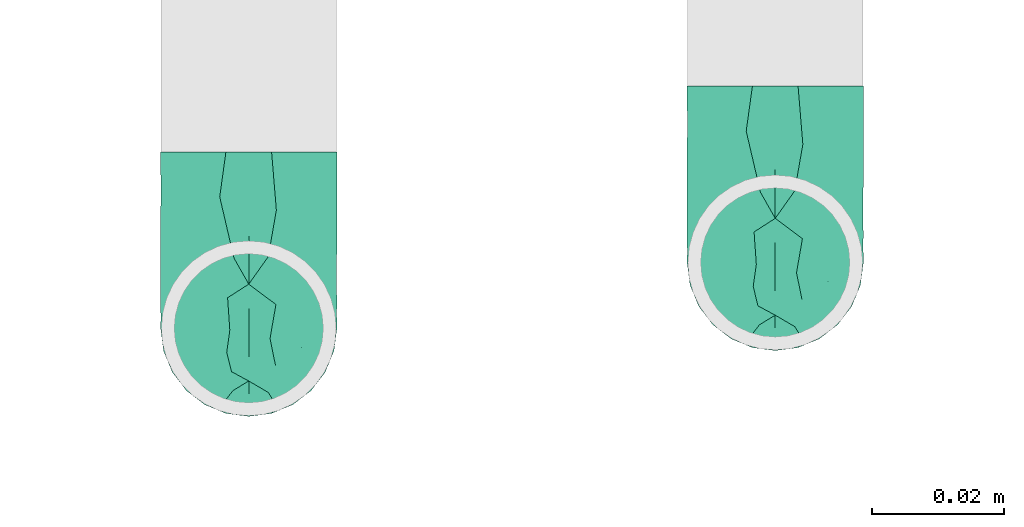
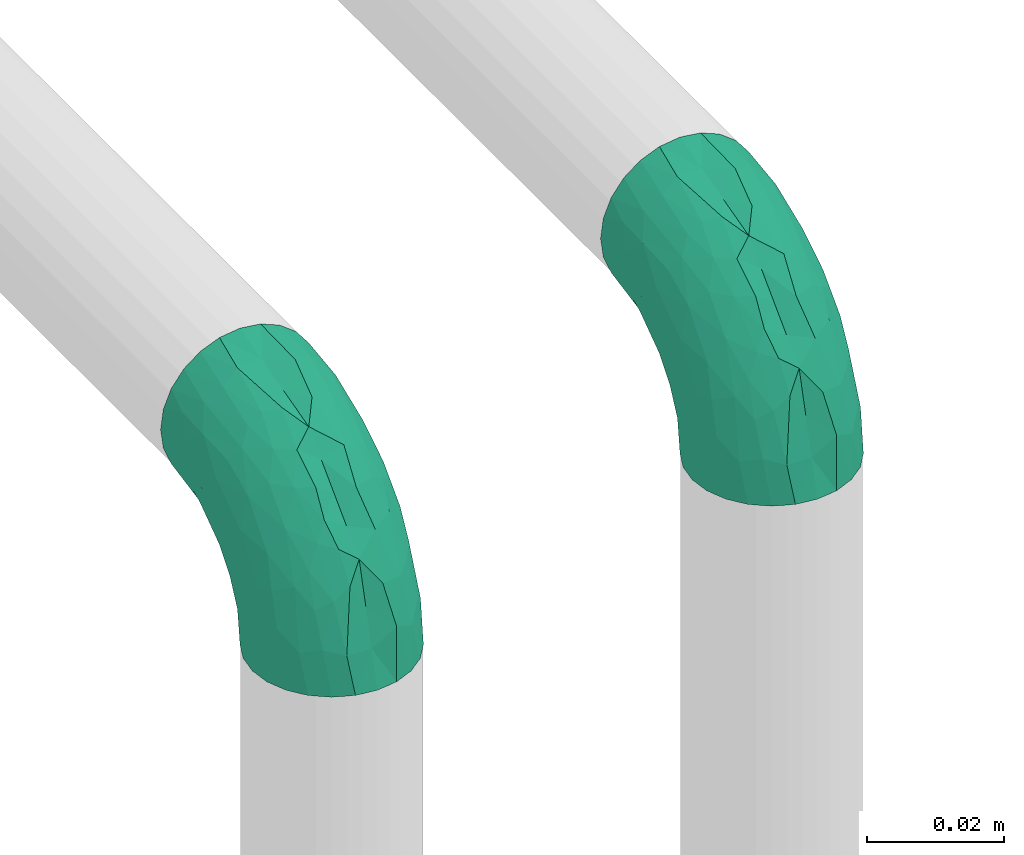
# One storey, part 91 of 156: 2 flow fittings.
"""IFC2X3 building model written with IfcOpenShell, lengths in millimetres."""

from ifc_helpers import new_model, entity, si_unit, converted_unit, derived_unit, direction, frame, origin_with_axes, place, context, subcontext, project, spatial, open_shell, surface_model, source, transform, mapped, type_object, element, save


model = new_model("IFC2X3")

# Units and contexts
model_context = context("Model", 3, precision=0.01, world=frame((0.0, 4.29681676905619e-09, 0.0)), true_north=direction((4.01073788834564e-13, 1.0)))
plan_context = context("Plan", 3, precision=0.01, world=frame((0.0, 4.29681676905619e-09, 0.0)), true_north=direction((4.01073788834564e-13, 1.0)))
body_context = subcontext(model_context, "Body", "Model", "MODEL_VIEW")
ifc_project = project(units=[converted_unit("PLANEANGLEUNIT", "DEGREE", entity("IfcPositiveLengthMeasure", 0.0174532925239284), si_unit("PLANEANGLEUNIT", "RADIAN"), dimensions=[0, 0, 0, 0, 0, 0, 0]), si_unit("AREAUNIT", "SQUARE_METRE"), si_unit("LENGTHUNIT", "METRE", prefix="MILLI"), si_unit("MASSUNIT", "GRAM", prefix="KILO"), si_unit("POWERUNIT", "WATT"), si_unit("PRESSUREUNIT", "PASCAL", prefix="KILO"), si_unit("FORCEUNIT", "NEWTON", prefix="KILO"), si_unit("ELECTRICVOLTAGEUNIT", "VOLT"), si_unit("ELECTRICCURRENTUNIT", "AMPERE"), si_unit("THERMODYNAMICTEMPERATUREUNIT", "DEGREE_CELSIUS"), si_unit("TIMEUNIT", "SECOND"), si_unit("VOLUMEUNIT", "CUBIC_METRE"), derived_unit("LINEARVELOCITYUNIT", [(si_unit("LENGTHUNIT", "METRE"), 1), (si_unit("TIMEUNIT", "SECOND"), -1)]), derived_unit("VOLUMETRICFLOWRATEUNIT", [(si_unit("VOLUMEUNIT", "CUBIC_METRE"), 1), (si_unit("TIMEUNIT", "SECOND"), -1)]), derived_unit("THERMALTRANSMITTANCEUNIT", [(si_unit("POWERUNIT", "WATT"), 1), (si_unit("THERMODYNAMICTEMPERATUREUNIT", "KELVIN"), -1), (si_unit("AREAUNIT", "SQUARE_METRE"), -1)]), derived_unit("SOUNDPRESSUREUNIT", [(si_unit("PRESSUREUNIT", "PASCAL"), 1)])], contexts=[model_context, plan_context])

# Site, building, storey
site_placement = place(None, frame((0.0, -4.29681676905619e-09, 0.0), z_axis=(0.0, 0.0, 1.0), x_axis=(1.0, 0.0, 0.0)))
site = spatial("IfcSite", under=ifc_project, at=site_placement, CompositionType="ELEMENT")
building_placement = place(site_placement, frame((0.0, 4.29681676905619e-09, 0.0), z_axis=(0.0, 0.0, 1.0), x_axis=(1.0, 0.0, 0.0)))
building = spatial("IfcBuilding", under=site, at=building_placement, Name="mc-building", CompositionType="ELEMENT")
storey_placement = place(building_placement, frame((0.0, 0.0, 205200.0), z_axis=(0.0, 0.0, 1.0), x_axis=(1.0, 0.0, 0.0)))
storey = spatial("IfcBuildingStorey", under=building, at=storey_placement, Name="Nivå D + 1,2 m", CompositionType="ELEMENT", Elevation=205200.0)

# Flow fittings
pipe_fitting_type = type_object("IfcPipeFittingType", Name="magi_pipe_fe_elbow_short_001", PredefinedType="BEND")
shared_shape = source(origin_with_axes(), body_context, "Body", "SurfaceModel", [
    surface_model("IfcShellBasedSurfaceModel", [(-26.8, 0.0, -13.4), (-26.8, -12.94341, -3.46818), (-26.8, 3.46818, -12.94341), (-26.8, 6.7, -11.60474), (-26.8, 9.47523, -9.47523), (-26.8, 11.60474, -6.7), (-26.8, 11.60474, 6.7), (-26.8, -9.47523, -9.47523), (-26.8, -6.7, -11.60474), (-26.8, -3.46818, -12.94341), (-26.8, -11.60474, -6.7), (-26.8, -13.4, 0.0), (-26.8, -12.94341, 3.46818), (-26.8, 12.94341, -3.46818), (-26.8, 12.94341, 3.46818), (-26.8, 3.46818, 12.94341), (-26.8, 6.7, 11.60474), (-26.8, 9.47523, 9.47523), (-26.8, -6.7, 11.60474), (-26.8, -11.60474, 6.7), (-26.8, -9.47523, 9.47523), (-26.8, -3.46818, 12.94341), (-26.8, 0.0, 13.4), (-26.8, 13.4, 0.0), (-3.46818, 26.8, -12.94341), (12.94341, 26.8, -3.46818), (0.0, 26.8, -13.4), (-9.47523, 26.8, -9.47523), (-6.7, 26.8, -11.60474), (-11.60474, 26.8, -6.7), (-11.60474, 26.8, 6.7), (6.7, 26.8, -11.60474), (9.47523, 26.8, -9.47523), (3.46818, 26.8, -12.94341), (11.60474, 26.8, -6.7), (12.94341, 26.8, 3.46818), (13.4, 26.8, 0.0), (-13.4, 26.8, 0.0), (-12.94341, 26.8, -3.46818), (-12.94341, 26.8, 3.46818), (-9.47523, 26.8, 9.47523), (-6.7, 26.8, 11.60474), (-3.46818, 26.8, 12.94341), (6.7, 26.8, 11.60474), (9.47523, 26.8, 9.47523), (11.60474, 26.8, 6.7), (3.46818, 26.8, 12.94341), (0.0, 26.8, 13.4), (-17.94383, -11.72186, 4.19396), (-19.61933, -10.40522, 7.51874), (-14.00394, -9.97131, 0.0), (-10.88146, -9.75217, 2.96415), (5.6402, 4.14256, 4.06277), (2.9355, 3.86758, 7.99817), (-0.16552, -0.70254, 6.90229), (-11.69279, -8.47867, 6.74741), (-3.60975, -5.23517, 4.12915), (-20.40197, -11.68565, 0.0), (6.07727, 10.7767, 9.16668), (7.71917, 17.5318, 9.98024), (3.23022, 10.34855, 11.14395), (-17.5318, -7.71917, 9.98024), (-19.6814, -5.06542, 12.05518), (-20.47091, -1.77513, 13.17083), (-18.76435, 2.05404, 13.37716), (-10.34855, -3.23022, 11.14395), (-13.34095, -0.12025, 12.98799), (-20.6562, 5.25542, 12.65822), (-21.01515, 11.15223, 8.78653), (-19.1981, 14.0055, 6.12639), (-23.45804, 12.58298, 5.55254), (-13.79572, 19.62699, 6.0655), (-4.65712, 13.17755, 13.37596), (-9.92557, 9.92557, 13.07441), (-7.97904, 5.85569, 13.33097), (-14.12498, 14.96497, 9.49183), (-23.18377, 8.11481, 10.91864), (-3.49778, 8.97497, 13.15743), (-6.65819, 2.45826, 12.5129), (-1.36893, 7.23965, 12.31444), (-22.3163, 13.71444, 3.37662), (-20.76788, 15.89859, 0.0), (-5.00198, 23.11411, 12.55149), (-1.83653, 20.04451, 13.36709), (5.06542, 19.6814, 12.05518), (-4.60225, -3.19632, 8.30444), (-2.39362, 2.39362, 10.95564), (1.77513, 20.47091, 13.17083), (10.40522, 19.61933, 7.51874), (8.47867, 11.69279, 6.74741), (11.72186, 17.94383, 4.19396), (-10.7767, -6.07727, 9.16668), (-14.71477, 20.20527, 3.11661), (-18.32912, 15.92283, 3.19527), (9.75217, 10.88146, 2.96415), (9.97131, 14.00394, 0.0), (11.68565, 20.40197, 0.0), (-17.32477, 17.32477, 0.0), (8.01422, 6.7, 0.0), (-11.0099, 17.80242, 10.25412), (-8.46783, 20.75346, 11.10693), (-11.06207, 21.36651, 8.74797), (-10.13559, 14.48567, 11.94159), (-5.79525, 18.15733, 12.76163), (-14.31139, 12.02432, 11.13575), (-6.7, -8.01422, 0.0), (-14.72492, 5.73985, 13.1602), (-13.14892, 3.28357, 13.39428), (-14.24576, 9.09225, 12.39421), (-7.80572, 13.90987, 12.83655), (0.12025, 13.34095, 12.98799), (-18.45241, 9.09615, 11.28418), (-1.02036, 0.84565, 9.15855), (-3.66591, -4.13183, 6.30134), (-3.02144, -4.33567, 0.0), (1.56761, -1.1228, 3.23127), (-15.89859, 20.76788, 0.0), (4.33567, 3.02144, 0.0), (0.65711, -0.65711, 0.0), (-21.21323, 1.69434, -13.35639), (-11.59215, 19.61477, -8.94181), (-19.9553, -12.05444, -4.41231), (-20.61911, 5.26132, -12.65979), (-18.29002, 15.89425, -3.37935), (-10.94714, -3.38176, -11.24231), (-11.6358, -0.16715, -12.74497), (-5.38395, -0.22423, -10.97991), (-19.45447, 8.78609, -11.20697), (-21.18665, 11.10723, -8.76769), (8.05635, 19.80434, -10.14754), (-16.16073, 12.27967, -10.10626), (-10.65974, -9.81032, -2.24682), (-4.63434, -6.26604, -3.21731), (-12.41035, 15.57424, -10.31822), (-9.54276, 16.38525, -11.6371), (-12.38435, 12.38435, -11.76567), (-1.18054, -2.52878, -5.66699), (1.17703, 2.36499, -8.51656), (4.94456, 3.94062, -5.27361), (-13.23013, 7.7548, -12.95755), (-18.92609, -10.30887, -7.4546), (-19.80434, -8.05635, -10.14754), (-5.46999, 19.49566, -12.70683), (12.05444, 19.9553, -4.41231), (-22.63124, -5.28269, -12.19553), (-11.57403, -7.91736, -7.4927), (-10.00514, -5.4662, -9.37392), (0.56412, 6.29454, -11.17498), (0.16715, 11.6358, -12.74497), (2.76952, 11.43973, -11.70622), (-22.71135, 13.83144, -2.294), (-13.13887, 21.26515, -5.84046), (-14.02683, 21.74629, -2.98452), (10.30887, 18.92609, -7.4546), (-4.73052, 4.73052, -12.6532), (-16.28385, 15.93209, -6.57302), (-1.69434, 21.21323, -13.35639), (-8.4106, 21.03687, -11.08508), (1.68957, 19.74249, -13.15499), (5.28269, 22.63124, -12.19553), (-19.74249, -1.68957, -13.15499), (-16.96978, -4.62448, -11.91765), (-3.16773, 14.76219, -13.39711), (-7.24575, 7.81916, -13.39239), (-7.92886, 12.7032, -13.00116), (-6.57993, -6.26304, -6.05124), (9.46363, 9.95483, -2.39006), (6.59847, 4.89531, -2.6225), (0.29079, -2.47661, -2.876), (-21.42347, 13.17132, -5.65321), (9.35918, 11.66841, -5.08525), (8.33374, 12.94014, -7.69724), (5.4662, 10.00514, -9.37392), (4.62448, 16.96978, -11.91765), (-3.89324, -2.60816, -8.35445), (5.97121, 7.49007, -7.29975), (-14.76219, 3.16773, -13.39711), (-15.36238, 22.06238, 0.0), (-11.66841, -9.35918, -5.08525), (3.63632, 1.19488, -3.35093), (-14.94382, 15.17624, -8.6945)], [open_shell([[[0, 1, 2]], [[3, 2, 4]], [[5, 2, 1]], [[4, 2, 5]], [[5, 1, 6]], [[7, 1, 8]], [[0, 9, 8]], [[10, 1, 7]], [[8, 1, 0]], [[11, 12, 1]], [[13, 5, 14]], [[5, 6, 14]], [[1, 15, 6]], [[15, 16, 17]], [[6, 15, 17]], [[1, 18, 15]], [[19, 20, 12]], [[18, 12, 20]], [[18, 21, 15]], [[18, 1, 12]], [[15, 21, 22]], [[14, 23, 13]], [[24, 25, 26]], [[27, 24, 28]], [[25, 24, 29]], [[29, 24, 27]], [[30, 25, 29]], [[31, 25, 32]], [[31, 33, 26]], [[32, 25, 34]], [[26, 25, 31]], [[25, 35, 36]], [[37, 29, 38]], [[39, 30, 29]], [[30, 40, 25]], [[40, 41, 42]], [[42, 25, 40]], [[43, 25, 42]], [[35, 44, 45]], [[44, 35, 43]], [[42, 46, 43]], [[35, 25, 43]], [[47, 46, 42]], [[39, 29, 37]], [[48, 49, 19]], [[48, 50, 51]], [[52, 53, 54]], [[55, 51, 56]], [[49, 20, 19]], [[57, 48, 12]], [[58, 59, 60]], [[61, 18, 20]], [[61, 62, 18]], [[22, 63, 64]], [[62, 65, 66]], [[59, 44, 43]], [[22, 21, 63]], [[67, 16, 15]], [[68, 69, 70]], [[30, 39, 71]], [[72, 73, 74]], [[69, 68, 75]], [[22, 64, 15]], [[16, 76, 17]], [[6, 17, 68]], [[77, 78, 79]], [[80, 81, 23]], [[42, 82, 83]], [[43, 84, 59]], [[85, 86, 65]], [[46, 47, 87]], [[88, 89, 90]], [[91, 65, 61]], [[47, 42, 83]], [[71, 92, 93]], [[90, 94, 95]], [[84, 43, 46]], [[88, 90, 45]], [[59, 84, 60]], [[35, 45, 90]], [[75, 71, 69]], [[18, 62, 21]], [[90, 96, 35]], [[97, 81, 93]], [[94, 98, 95]], [[92, 97, 93]], [[50, 48, 57]], [[70, 14, 6]], [[99, 100, 101]], [[40, 101, 100]], [[41, 40, 100]], [[102, 103, 100]], [[103, 72, 83]], [[82, 100, 103]], [[82, 42, 41]], [[99, 104, 102]], [[23, 14, 80]], [[67, 15, 64]], [[51, 50, 105]], [[48, 19, 12]], [[49, 55, 61]], [[45, 44, 88]], [[89, 52, 94]], [[106, 107, 74]], [[108, 67, 106]], [[40, 30, 101]], [[103, 102, 109]], [[103, 109, 72]], [[87, 83, 110]], [[76, 68, 17]], [[68, 111, 104]], [[65, 62, 61]], [[63, 62, 66]], [[91, 61, 55]], [[65, 86, 78]], [[87, 84, 46]], [[110, 79, 60]], [[110, 60, 84]], [[86, 112, 60]], [[55, 49, 48]], [[61, 20, 49]], [[44, 59, 88]], [[89, 88, 59]], [[106, 67, 64]], [[76, 67, 111]], [[53, 52, 89]], [[112, 86, 85]], [[56, 113, 55]], [[112, 54, 53]], [[58, 89, 59]], [[56, 51, 105]], [[114, 115, 56]], [[14, 70, 80]], [[69, 71, 93]], [[37, 116, 92]], [[92, 116, 97]], [[30, 71, 101]], [[75, 101, 71]], [[99, 102, 100]], [[108, 104, 111]], [[106, 74, 73]], [[110, 83, 72]], [[78, 74, 66]], [[72, 74, 77]], [[83, 87, 47]], [[84, 87, 110]], [[62, 63, 21]], [[64, 63, 66]], [[12, 11, 57]], [[96, 90, 95]], [[96, 36, 35]], [[115, 117, 52]], [[56, 105, 114]], [[55, 48, 51]], [[89, 94, 90]], [[52, 98, 94]], [[106, 64, 107]], [[108, 106, 73]], [[102, 108, 73]], [[67, 108, 111]], [[102, 104, 108]], [[68, 104, 75]], [[64, 66, 107]], [[66, 74, 107]], [[65, 78, 66]], [[79, 78, 86]], [[60, 79, 86]], [[77, 79, 110]], [[72, 77, 110]], [[78, 77, 74]], [[67, 76, 16]], [[68, 76, 111]], [[100, 82, 41]], [[83, 82, 103]], [[68, 70, 6]], [[80, 69, 93]], [[69, 80, 70]], [[80, 93, 81]], [[55, 85, 91]], [[85, 65, 91]], [[60, 53, 58]], [[53, 89, 58]], [[54, 112, 85]], [[60, 112, 53]], [[85, 113, 54]], [[113, 115, 54]], [[55, 113, 85]], [[115, 113, 56]], [[71, 39, 92]], [[115, 114, 118]], [[37, 92, 39]], [[101, 75, 99]], [[99, 75, 104]], [[102, 73, 109]], [[72, 109, 73]], [[54, 115, 52]], [[117, 115, 118]], [[117, 98, 52]], [[2, 119, 0]], [[29, 27, 120]], [[121, 57, 1]], [[3, 122, 2]], [[97, 123, 81]], [[124, 125, 126]], [[127, 4, 128]], [[32, 129, 31]], [[127, 128, 130]], [[131, 132, 105]], [[133, 134, 135]], [[127, 3, 4]], [[136, 137, 138]], [[139, 122, 127]], [[4, 5, 128]], [[10, 140, 121]], [[141, 140, 7]], [[24, 142, 28]], [[95, 143, 96]], [[144, 8, 9]], [[145, 141, 146]], [[25, 36, 96]], [[147, 148, 149]], [[140, 10, 7]], [[23, 81, 150]], [[130, 133, 135]], [[151, 152, 38]], [[153, 34, 143]], [[147, 154, 148]], [[38, 29, 151]], [[120, 155, 151]], [[32, 153, 129]], [[26, 156, 24]], [[24, 156, 142]], [[143, 34, 25]], [[27, 28, 157]], [[123, 152, 155]], [[158, 33, 159]], [[144, 160, 161]], [[122, 3, 127]], [[148, 162, 158]], [[157, 28, 142]], [[162, 163, 164]], [[159, 33, 31]], [[165, 136, 132]], [[34, 153, 32]], [[166, 98, 167]], [[160, 9, 0]], [[161, 160, 125]], [[95, 166, 143]], [[50, 131, 105]], [[121, 1, 10]], [[168, 114, 132]], [[150, 169, 13]], [[167, 98, 117]], [[33, 158, 26]], [[164, 142, 162]], [[133, 157, 134]], [[7, 8, 141]], [[165, 145, 146]], [[170, 171, 153]], [[129, 172, 173]], [[126, 137, 174]], [[175, 137, 172]], [[148, 158, 173]], [[156, 158, 162]], [[149, 172, 147]], [[148, 154, 163]], [[119, 160, 0]], [[176, 163, 125]], [[176, 125, 160]], [[125, 154, 126]], [[169, 128, 5]], [[127, 130, 135]], [[139, 127, 135]], [[119, 122, 176]], [[120, 151, 29]], [[152, 97, 177]], [[142, 164, 134]], [[120, 27, 157]], [[152, 37, 38]], [[81, 123, 150]], [[123, 155, 169]], [[152, 123, 97]], [[140, 178, 121]], [[121, 178, 131]], [[144, 141, 8]], [[146, 141, 161]], [[25, 96, 143]], [[170, 153, 143]], [[129, 153, 171]], [[159, 129, 173]], [[137, 147, 172]], [[126, 154, 147]], [[172, 171, 175]], [[174, 137, 136]], [[137, 126, 147]], [[126, 146, 124]], [[117, 118, 179]], [[179, 138, 167]], [[128, 169, 155]], [[5, 13, 169]], [[57, 121, 50]], [[57, 11, 1]], [[122, 119, 2]], [[160, 119, 176]], [[158, 156, 26]], [[142, 156, 162]], [[162, 148, 163]], [[139, 135, 164]], [[125, 163, 154]], [[139, 163, 176]], [[163, 139, 164]], [[122, 139, 176]], [[155, 180, 128]], [[180, 120, 133]], [[180, 133, 130]], [[157, 133, 120]], [[142, 134, 157]], [[164, 135, 134]], [[128, 180, 130]], [[120, 180, 155]], [[152, 151, 155]], [[37, 152, 177]], [[169, 150, 123]], [[23, 150, 13]], [[121, 131, 50]], [[178, 165, 132]], [[178, 132, 131]], [[168, 132, 136]], [[145, 165, 178]], [[174, 165, 146]], [[178, 140, 145]], [[141, 145, 140]], [[179, 136, 138]], [[170, 166, 167]], [[168, 179, 118]], [[170, 167, 138]], [[143, 166, 170]], [[95, 98, 166]], [[117, 179, 167]], [[136, 179, 168]], [[129, 159, 31]], [[158, 159, 173]], [[160, 144, 9]], [[141, 144, 161]], [[175, 170, 138]], [[129, 171, 172]], [[170, 175, 171]], [[137, 175, 138]], [[148, 173, 149]], [[172, 149, 173]], [[165, 174, 136]], [[126, 174, 146]], [[146, 161, 124]], [[125, 124, 161]], [[114, 168, 118]], [[114, 105, 132]]])]),
])
for number, where, z_axis, x_axis, name in (
    (1, (325040.9735, 464467.01094, 4400.0), (1.0, 0.0, 0.0), (0.0, -1.0, 0.0), "magi_pipe_fe_elbow_short_001"),
    (2, (325120.9735, 464477.01094, 4400.0), (1.0, 0.0, 0.0), (0.0, -1.0, 0.0), "magi_pipe_fe_elbow_short_001"),
):
    element("IfcFlowFitting", number, at=place(storey_placement, frame(where, z_axis=z_axis, x_axis=x_axis)), inside=storey, type_object=pipe_fitting_type, Name=name, context=body_context, shape_type="MappedRepresentation", body=[
        mapped(shared_shape, transform((0.0, 0.0, 0.0), scale=1.0)),
    ])

save(model, "model.ifc")
